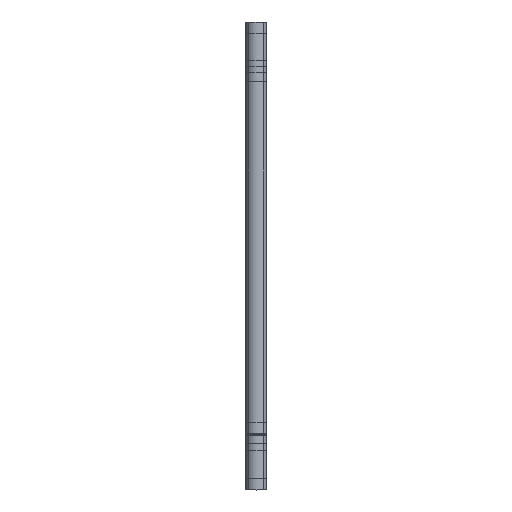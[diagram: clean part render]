
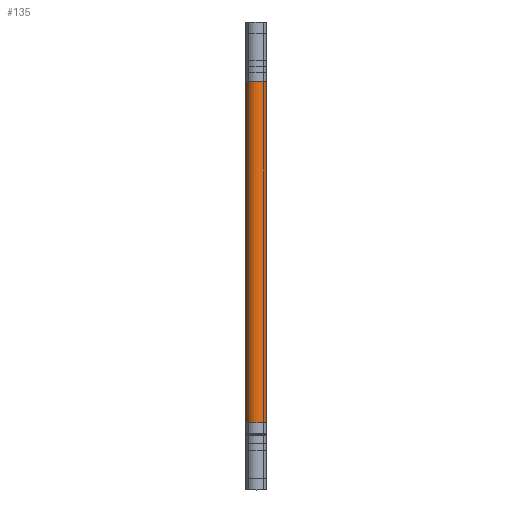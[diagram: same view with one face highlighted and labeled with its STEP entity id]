
A CAD part, top view. The second image highlights one B-rep face of the part: STEP entity #135.
In plain terms, the highlighted cylindrical face has radius 4 mm (diameter 8 mm), a full revolution.
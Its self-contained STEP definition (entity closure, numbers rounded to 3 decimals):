
#101=CARTESIAN_POINT('',(-4.0,-67.0,783.0));
#102=VERTEX_POINT('',#101);
#103=CARTESIAN_POINT('',(0.0,-67.0,783.0));
#104=DIRECTION('',(0.0,1.0,0.0));
#105=DIRECTION('',(1.0,0.0,0.0));
#106=AXIS2_PLACEMENT_3D('',#103,#104,#105);
#107=CIRCLE('',#106,4.0);
#108=EDGE_CURVE('',#102,#102,#107,.T.);
#116=CARTESIAN_POINT('',(0.0,0.0,783.0));
#117=DIRECTION('',(0.0,1.0,0.0));
#118=DIRECTION('',(1.0,0.0,0.0));
#119=AXIS2_PLACEMENT_3D('',#116,#117,#118);
#120=CYLINDRICAL_SURFACE('',#119,4.0);
#121=ORIENTED_EDGE('',*,*,#108,.T.);
#122=EDGE_LOOP('',(#121));
#123=FACE_OUTER_BOUND('',#122,.T.);
#124=CARTESIAN_POINT('',(-4.0,67.0,783.0));
#125=VERTEX_POINT('',#124);
#126=CARTESIAN_POINT('',(0.0,67.0,783.0));
#127=DIRECTION('',(0.0,-1.0,0.0));
#128=DIRECTION('',(1.0,0.0,0.0));
#129=AXIS2_PLACEMENT_3D('',#126,#127,#128);
#130=CIRCLE('',#129,4.0);
#131=EDGE_CURVE('',#125,#125,#130,.T.);
#132=ORIENTED_EDGE('',*,*,#131,.T.);
#133=EDGE_LOOP('',(#132));
#134=FACE_BOUND('',#133,.T.);
#135=ADVANCED_FACE('',(#123,#134),#120,.T.);
